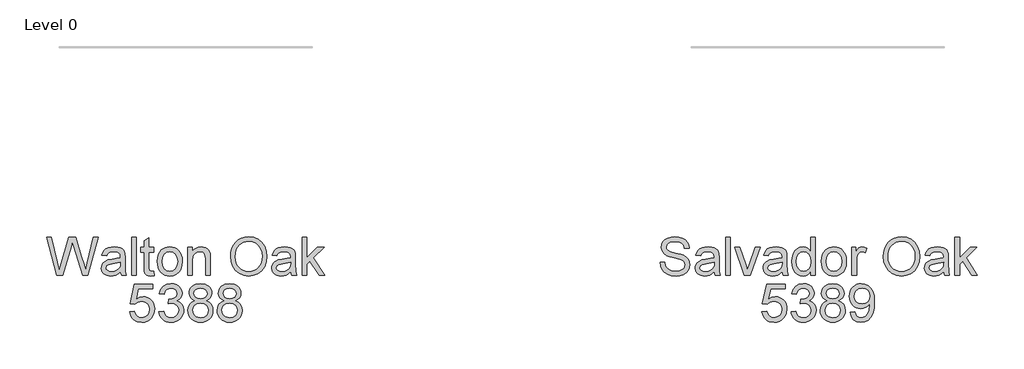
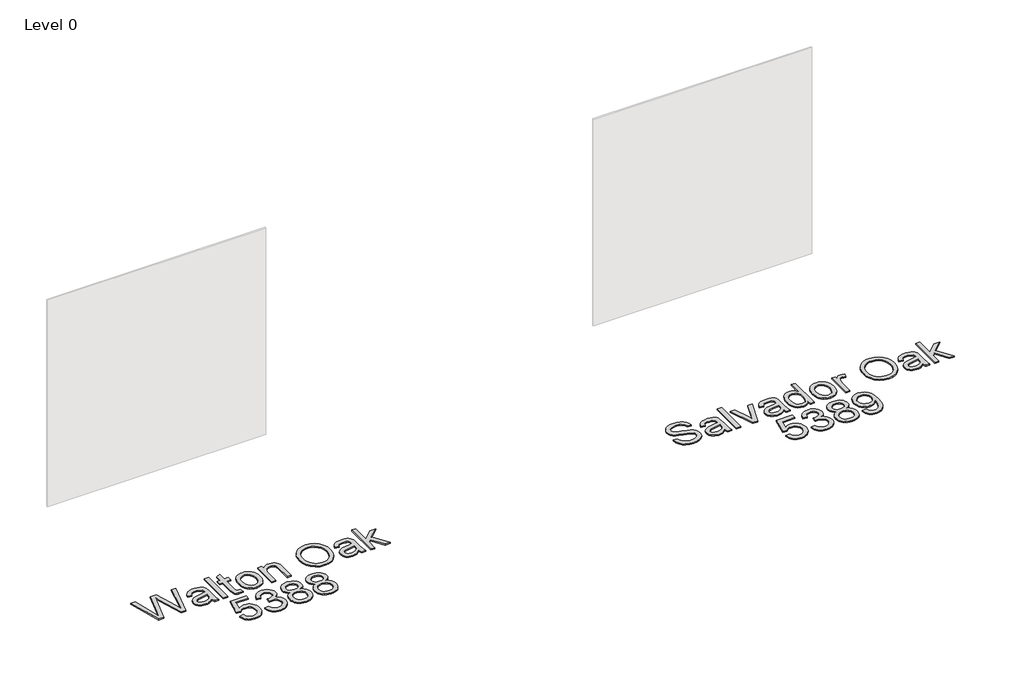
# One storey, part 15 of 16: 2 proxies.
"""IFC4 building model written with IfcOpenShell, lengths in millimetres."""

from ifc_helpers import new_model, si_unit, origin, origin_with_axes, place, context, project, spatial, polyline, outline, extrude, element, save

model = new_model("IFC4")

# Units and contexts
model_context = context("Model", 3, world=origin())
ifc_project = project(units=[si_unit("LENGTHUNIT", "METRE", prefix="MILLI")], contexts=[model_context])

# Site, building, storey
site = spatial("IfcSite", under=ifc_project)
building = spatial("IfcBuilding", under=site)
storey = spatial("IfcBuildingStorey", under=building, Name="Level 0", Elevation=0.0)

# Proxies
placement = place(None, origin())
element("IfcBuildingElementProxy", 1, Name="300mm Arial", ObjectType="300mm Arial", at=placement, inside=storey, context=model_context, shape_type="SweptSolid", body=[
    extrude(outline(polyline([(9301.4862161, -6899.2649241), (9339.1573324, -6899.2649241), (9343.4799458, -6920.1698185), (9351.2974382, -6936.9728286), (9363.4927263, -6950.308551), (9380.948727, -6960.8115819), (9402.2858827, -6967.6265959), (9426.124636, -6969.8982672), (9447.1123038, -6968.1784189), (9465.4880095, -6963.0188739), (9480.3780333, -6954.8518936), (9490.9086554, -6944.1097394), (9497.1718463, -6931.7764955), (9499.2595767, -6918.8362463), (9497.6960782, -6906.2270909), (9493.0055827, -6895.3285868), (9483.4774391, -6886.0303694), (9467.4009959, -6878.222074), (9412.5497904, -6863.837888), (9376.5433401, -6854.3189414), (9353.5047302, -6845.2598472), (9334.7519455, -6832.5863125), (9321.4622084, -6817.2272392), (9313.5435484, -6799.5137211), (9310.9039951, -6779.7768521), (9314.1689478, -6757.7131294), (9323.963806, -6737.1393289), (9340.0310521, -6719.7017223), (9362.1131689, -6707.0465817), (9388.6190666, -6699.3486509), (9417.9576557, -6696.782674), (9449.7426601, -6699.4682126), (9477.5545389, -6707.5248283), (9500.4000108, -6720.7869742), (9517.2857944, -6739.0891034), (9527.9727664, -6761.2907818), (9532.2218034, -6786.2515752), (9494.5506871, -6786.2515752), (9487.6345056, -6763.7739853), (9473.2135314, -6747.5503893), (9450.6807592, -6737.7279401), (9419.4291837, -6734.4537903), (9387.4418442, -6737.6911519), (9365.4976832, -6747.4032365), (9352.8057544, -6761.695452), (9348.5751114, -6778.6732061), (9351.5733497, -6793.1493626), (9360.5680645, -6804.7928278), (9381.8316438, -6815.2038882), (9422.0779341, -6825.8356779), (9463.6118113, -6835.9340387), (9488.7381516, -6844.7448125), (9510.2132631, -6858.4116286), (9525.1952573, -6875.2790181), (9533.9968341, -6895.1630399), (9536.930693, -6917.8797531), (9533.5553757, -6941.102304), (9523.4294237, -6962.9452975), (9506.9667045, -6981.7440675), (9484.5810851, -6995.8339479), (9457.6613201, -7004.6355246), (9427.596164, -7007.5693835), (9390.6884028, -7004.4055984), (9360.3105471, -6994.9142429), (9336.1131088, -6979.0585289), (9317.7466002, -6956.8016682), (9305.9559823, -6929.6887651), (9301.4862161, -6899.2649241)])), origin_with_axes(), (0.0, 0.0, 1.0), 10.0),
    extrude(outline(polyline([(9729.995164, -6974.6071568), (9711.9965374, -6990.0398064), (9693.4644819, -7000.1381672), (9673.9759332, -7005.7115794), (9653.107827, -7007.5693835), (9621.6263253, -7003.0996173), (9598.4037744, -6989.6903186), (9584.0839677, -6969.3280501), (9579.3106988, -6943.9993748), (9581.1133206, -6928.3827841), (9586.5211859, -6914.2009331), (9594.8629102, -6902.0608273), (9605.4671087, -6892.5694718), (9631.8442477, -6880.2086368), (9664.4385925, -6874.5432541), (9702.9558374, -6868.5835657), (9729.7744348, -6861.5938078), (9729.995164, -6853.2060983), (9727.401596, -6836.3938912), (9719.6208918, -6825.3942195), (9702.2200734, -6817.2272392), (9677.9766499, -6814.5049125), (9655.5358482, -6816.3167313), (9639.8640752, -6821.7521878), (9629.1771033, -6831.8045633), (9621.6907047, -6847.4671392), (9584.0195883, -6842.7582497), (9590.5586908, -6822.156858), (9600.3167607, -6805.9700502), (9614.2043061, -6793.590821), (9633.1318347, -6784.4121652), (9656.2808093, -6778.7283884), (9682.8326923, -6776.8337961), (9708.2993234, -6778.5076592), (9728.4868479, -6783.5292485), (9743.7079654, -6791.0800264), (9754.2753757, -6800.3414556), (9761.2835277, -6811.7917827), (9765.8268704, -6825.9092543), (9767.6662803, -6858.8714811), (9767.6662803, -6905.7396473), (9769.5792667, -6971.1858542), (9777.0840594, -7002.860494), (9739.4129431, -7002.860494), (9729.995164, -6974.6071568)]), holes=[polyline([(9729.995164, -6899.2649241), (9669.2210584, -6910.8164188), (9636.8106547, -6916.9232599), (9622.132163, -6926.8560738), (9616.9818151, -6941.3506244), (9619.7869153, -6952.5526311), (9628.202216, -6961.7312869), (9642.043776, -6967.8565221), (9661.1276545, -6969.8982672), (9681.3611643, -6967.64499), (9699.2402292, -6960.8851583), (9713.7347798, -6950.9247533), (9723.8147465, -6939.069756), (9728.2845128, -6926.8560738), (9729.7744348, -6909.933502), (9729.995164, -6899.2649241)])]), origin_with_axes(), (0.0, 0.0, 1.0), 10.0),
    extrude(outline(polyline([(9819.4640653, -7002.860494), (9819.4640653, -6701.4915635), (9857.1351816, -6701.4915635), (9857.1351816, -7002.860494), (9819.4640653, -7002.860494)])), origin_with_axes(), (0.0, 0.0, 1.0), 10.0),
    extrude(outline(polyline([(9967.9412385, -7002.860494), (9890.0974083, -6781.5426857), (9929.9758166, -6781.5426857), (9977.1382884, -6914.1273567), (9991.3385334, -6958.7146546), (10005.2444728, -6916.6289543), (10052.7012502, -6781.5426857), (10092.5796585, -6781.5426857), (10015.6923215, -7002.860494), (9967.9412385, -7002.860494)])), origin_with_axes(), (0.0, 0.0, 1.0), 10.0),
    extrude(outline(polyline([(10266.8085714, -6974.6071568), (10248.8099448, -6990.0398064), (10230.2778893, -7000.1381672), (10210.7893406, -7005.7115794), (10189.9212344, -7007.5693835), (10158.4397327, -7003.0996173), (10135.2171817, -6989.6903186), (10120.8973751, -6969.3280501), (10116.1241062, -6943.9993748), (10117.9267279, -6928.3827841), (10123.3345933, -6914.2009331), (10131.6763175, -6902.0608273), (10142.280516, -6892.5694718), (10168.6576551, -6880.2086368), (10201.2519999, -6874.5432541), (10239.7692448, -6868.5835657), (10266.5878422, -6861.5938078), (10266.8085714, -6853.2060983), (10264.2150033, -6836.3938912), (10256.4342991, -6825.3942195), (10239.0334808, -6817.2272392), (10214.7900573, -6814.5049125), (10192.3492556, -6816.3167313), (10176.6774826, -6821.7521878), (10165.9905106, -6831.8045633), (10158.504112, -6847.4671392), (10120.8329957, -6842.7582497), (10127.3720982, -6822.156858), (10137.1301681, -6805.9700502), (10151.0177134, -6793.590821), (10169.9452421, -6784.4121652), (10193.0942166, -6778.7283884), (10219.6460996, -6776.8337961), (10245.1127307, -6778.5076592), (10265.3002552, -6783.5292485), (10280.5213728, -6791.0800264), (10291.0887831, -6800.3414556), (10298.0969351, -6811.7917827), (10302.6402777, -6825.9092543), (10304.4796877, -6858.8714811), (10304.4796877, -6905.7396473), (10306.3926741, -6971.1858542), (10313.8974668, -7002.860494), (10276.2263505, -7002.860494), (10266.8085714, -6974.6071568)]), holes=[polyline([(10266.8085714, -6899.2649241), (10206.0344658, -6910.8164188), (10173.624062, -6916.9232599), (10158.9455704, -6926.8560738), (10153.7952225, -6941.3506244), (10156.6003227, -6952.5526311), (10165.0156233, -6961.7312869), (10178.8571834, -6967.8565221), (10197.9410619, -6969.8982672), (10218.1745716, -6967.64499), (10236.0536366, -6960.8851583), (10250.5481872, -6950.9247533), (10260.6281539, -6939.069756), (10265.0979201, -6926.8560738), (10266.5878422, -6909.933502), (10266.8085714, -6899.2649241)])]), origin_with_axes(), (0.0, 0.0, 1.0), 10.0),
    extrude(outline(polyline([(10492.8352692, -7002.860494), (10492.8352692, -6967.3230932), (10481.5642846, -6984.9308452), (10467.9112641, -6997.507811), (10451.8762076, -7005.0539904), (10433.4591152, -7007.5693835), (10409.1053271, -7003.9273518), (10386.8116782, -6993.0012565), (10367.9393319, -6975.5544529), (10353.8494515, -6952.350296), (10345.0754659, -6924.3268851), (10342.150804, -6892.422319), (10344.8455396, -6860.9132261), (10352.9297465, -6832.4575538), (10366.3942275, -6808.6739828), (10385.2297856, -6791.181194), (10408.0108782, -6780.4206456), (10433.3119624, -6776.8337961), (10451.7428504, -6779.3997731), (10468.0400228, -6787.0977038), (10481.8539917, -6798.8975188), (10492.8352692, -6813.7691485), (10492.8352692, -6701.4915635), (10530.5063855, -6701.4915635), (10530.5063855, -7002.860494), (10492.8352692, -7002.860494)]), holes=[polyline([(10379.8219203, -6892.2751662), (10384.0709574, -6926.350236), (10396.8180685, -6950.5844625), (10415.3409269, -6965.069816), (10436.917206, -6969.8982672), (10458.4842879, -6965.2905452), (10476.5380968, -6951.4673793), (10488.7609761, -6928.1712519), (10492.8352692, -6895.1446458), (10488.6873997, -6859.037028), (10476.2437913, -6834.0026582), (10457.7301298, -6819.3793489), (10435.3721016, -6814.5049125), (10413.5750934, -6819.1862108), (10395.7144225, -6833.230106), (10383.7950459, -6857.3539678), (10379.8219203, -6892.2751662)])]), origin_with_axes(), (0.0, 0.0, 1.0), 10.0),
    extrude(outline(polyline([(10577.5952809, -6892.2015898), (10579.6324275, -6863.5389839), (10585.7438671, -6838.8403064), (10595.9295999, -6818.1055575), (10610.1896257, -6801.334737), (10624.5462206, -6790.6155754), (10640.3927375, -6782.9590314), (10657.7291765, -6778.3651049), (10676.5555376, -6776.8337961), (10697.3385711, -6778.698498), (10716.1304433, -6784.2926036), (10732.9311541, -6793.6161129), (10747.7407037, -6806.669026), (10759.8279265, -6823.0098843), (10768.4616571, -6842.1972296), (10773.6418954, -6864.2310619), (10775.3686415, -6889.1113811), (10772.315221, -6927.1687735), (10763.1549593, -6956.1394806), (10748.1545709, -6977.8353213), (10727.5807704, -6994.0681143), (10703.1442088, -7004.1940662), (10676.5555376, -7007.5693835), (10655.4690015, -7005.7115794), (10636.5023854, -7000.1381672), (10619.6556893, -6990.8491468), (10604.9289132, -6977.8445183), (10592.9704491, -6961.3450108), (10584.428689, -6941.5713536), (10579.3036329, -6918.5235466), (10577.5952809, -6892.2015898)]), holes=[polyline([(10615.2663972, -6892.1280134), (10619.6257989, -6926.2214773), (10632.7040038, -6950.5108861), (10652.3856905, -6965.0514219), (10676.5555376, -6969.8982672), (10700.6150201, -6965.0238308), (10720.2599187, -6950.4005215), (10733.3381236, -6925.789216), (10737.6975252, -6890.950791), (10733.3105324, -6857.8506085), (10720.1495541, -6833.8922936), (10700.4770644, -6819.3517577), (10676.5555376, -6814.5049125), (10652.3856905, -6819.3333636), (10632.7040038, -6833.8187172), (10619.6257989, -6858.0529436), (10615.2663972, -6892.1280134)])]), origin_with_axes(), (0.0, 0.0, 1.0), 10.0),
    extrude(outline(polyline([(10817.7486474, -7002.860494), (10817.7486474, -6781.5426857), (10850.7108741, -6781.5426857), (10850.7108741, -6814.2841833), (10862.8877682, -6795.3014723), (10874.108169, -6784.1178596), (10885.3653581, -6778.654812), (10897.6526167, -6776.8337961), (10916.4145985, -6779.7400639), (10935.4708858, -6788.4588672), (10922.8893216, -6822.2304343), (10909.6455698, -6816.4362929), (10896.4018179, -6814.5049125), (10885.1538259, -6816.3627165), (10875.1014504, -6821.9361288), (10866.9804554, -6830.8020848), (10861.5266048, -6842.5375205), (10856.946474, -6863.5803706), (10855.4197637, -6886.5362071), (10855.4197637, -7002.860494), (10817.7486474, -7002.860494)])), origin_with_axes(), (0.0, 0.0, 1.0), 10.0),
    extrude(outline(polyline([(11067.3197929, -6856.1491543), (11069.8305875, -6820.8002931), (11077.3629714, -6789.5073309), (11089.9169445, -6762.2702677), (11107.4925068, -6739.0891034), (11129.0365961, -6720.5800406), (11153.4961503, -6707.3592814), (11180.8711692, -6699.4268258), (11211.161653, -6696.782674), (11250.6905734, -6701.7490809), (11286.1360036, -6716.6483017), (11315.5665632, -6740.4318727), (11337.0508718, -6772.0513302), (11350.184259, -6809.9799639), (11354.5620547, -6852.6910636), (11349.9543327, -6895.9723803), (11336.1311668, -6934.4344429), (11313.855912, -6966.1090827), (11283.8919235, -6989.028131), (11248.7499959, -7002.9340704), (11210.9409238, -7007.5693835), (11170.8049981, -7002.4466267), (11135.1572328, -6987.0783564), (11105.8002496, -6962.853327), (11084.5366703, -6931.1602931), (11071.6240122, -6894.6939903), (11067.3197929, -6856.1491543)]), holes=[polyline([(11104.9909092, -6856.5170363), (11106.8740052, -6881.4916252), (11112.5232931, -6903.661114), (11121.9387729, -6923.0255025), (11135.1204446, -6939.5847908), (11151.1440048, -6952.8469367), (11169.0851498, -6962.3198981), (11188.9438798, -6968.0036749), (11210.7201946, -6969.8982672), (11232.86899, -6967.9852808), (11252.9622447, -6962.2463217), (11270.9999588, -6952.6813898), (11286.9821322, -6939.2904852), (11300.0672349, -6922.381709), (11309.4137369, -6902.2631624), (11315.021638, -6878.9348454), (11316.8909384, -6852.396758), (11313.6903651, -6819.0482551), (11304.088645, -6790.2247008), (11288.3340986, -6766.6526619), (11266.6750461, -6749.0587055), (11240.5462274, -6738.1050191), (11211.3823822, -6734.4537903), (11190.3625247, -6736.2127261), (11170.8601804, -6741.4895335), (11152.8753494, -6750.2842124), (11136.4080316, -6762.5967629), (11122.6630406, -6779.0203948), (11112.8451898, -6800.1483176), (11106.9544794, -6825.9805314), (11104.9909092, -6856.5170363)])]), origin_with_axes(), (0.0, 0.0, 1.0), 10.0),
    extrude(outline(polyline([(11542.9176363, -6974.6071568), (11524.9190097, -6990.0398064), (11506.3869541, -7000.1381672), (11486.8984055, -7005.7115794), (11466.0302993, -7007.5693835), (11434.5487975, -7003.0996173), (11411.3262466, -6989.6903186), (11397.0064399, -6969.3280501), (11392.233171, -6943.9993748), (11394.0357928, -6928.3827841), (11399.4436581, -6914.2009331), (11407.7853824, -6902.0608273), (11418.3895809, -6892.5694718), (11444.76672, -6880.2086368), (11477.3610647, -6874.5432541), (11515.8783096, -6868.5835657), (11542.6969071, -6861.5938078), (11542.9176363, -6853.2060983), (11540.3240682, -6836.3938912), (11532.543364, -6825.3942195), (11515.1425456, -6817.2272392), (11490.8991221, -6814.5049125), (11468.4583204, -6816.3167313), (11452.7865474, -6821.7521878), (11442.0995755, -6831.8045633), (11434.6131769, -6847.4671392), (11396.9420606, -6842.7582497), (11403.481163, -6822.156858), (11413.239233, -6805.9700502), (11427.1267783, -6793.590821), (11446.0543069, -6784.4121652), (11469.2032815, -6778.7283884), (11495.7551645, -6776.8337961), (11521.2217956, -6778.5076592), (11541.4093201, -6783.5292485), (11556.6304376, -6791.0800264), (11567.1978479, -6800.3414556), (11574.206, -6811.7917827), (11578.7493426, -6825.9092543), (11580.5887526, -6858.8714811), (11580.5887526, -6905.7396473), (11582.5017389, -6971.1858542), (11590.0065316, -7002.860494), (11552.3354153, -7002.860494), (11542.9176363, -6974.6071568)]), holes=[polyline([(11542.9176363, -6899.2649241), (11482.1435307, -6910.8164188), (11449.7331269, -6916.9232599), (11435.0546353, -6926.8560738), (11429.9042873, -6941.3506244), (11432.7093876, -6952.5526311), (11441.1246882, -6961.7312869), (11454.9662483, -6967.8565221), (11474.0501268, -6969.8982672), (11494.2836365, -6967.64499), (11512.1627015, -6960.8851583), (11526.6572521, -6950.9247533), (11536.7372187, -6939.069756), (11541.206985, -6926.8560738), (11542.6969071, -6909.933502), (11542.9176363, -6899.2649241)])]), origin_with_axes(), (0.0, 0.0, 1.0), 10.0),
    extrude(outline(polyline([(11632.3865375, -7002.860494), (11632.3865375, -6701.4915635), (11670.0576538, -6701.4915635), (11670.0576538, -6863.4332178), (11754.5233599, -6781.5426857), (11806.6154504, -6781.5426857), (11721.1196747, -6864.4632874), (11811.3243399, -7002.860494), (11767.3256533, -7002.860494), (11694.1171363, -6890.6564855), (11670.0576538, -6913.9802039), (11670.0576538, -7002.860494), (11632.3865375, -7002.860494)])), origin_with_axes(), (0.0, 0.0, 1.0), 10.0),
    extrude(outline(polyline([(10106.7063271, -7288.7338254), (10144.3774434, -7284.0249358), (10151.2936249, -7306.6404815), (10163.3601544, -7322.8364863), (10180.5218494, -7332.5761621), (10202.7235278, -7335.8227207), (10229.7260663, -7331.3069693), (10249.959576, -7317.7597148), (10262.5963226, -7296.7444558), (10266.8085714, -7269.8246908), (10262.863037, -7244.4776213), (10251.0264338, -7225.0902402), (10231.2067913, -7212.7845875), (10203.312139, -7208.6827032), (10185.0376009, -7210.3197781), (10170.2395477, -7215.2310027), (10149.0863329, -7232.2271509), (10111.4152166, -7227.5182614), (10144.3774434, -7072.1249066), (10290.3530191, -7072.1249066), (10290.3530191, -7109.7960229), (10174.8380726, -7109.7960229), (10158.7248412, -7192.790201), (10185.6354092, -7176.4562404), (10213.8335641, -7171.0115869), (10232.1793793, -7172.6992456), (10249.030674, -7177.7622215), (10264.387448, -7186.2005148), (10278.2497014, -7198.0141254), (10289.7253204, -7212.4810848), (10297.9221911, -7228.8794248), (10302.8403136, -7247.2091452), (10304.4796877, -7267.470246), (10298.5751817, -7305.1413624), (10291.1945492, -7321.9351754), (10280.8616636, -7337.3678251), (10265.2082847, -7353.1729553), (10246.9429437, -7364.4623341), (10226.0656404, -7371.2359613), (10202.576375, -7373.4938371), (10165.5766434, -7367.6904986), (10149.8979726, -7360.4363255), (10136.1000985, -7350.2804832), (10124.619881, -7337.7288093), (10115.8941799, -7323.2871418), (10106.7063271, -7288.7338254)])), origin_with_axes(), (0.0, 0.0, 1.0), 10.0),
    extrude(outline(polyline([(10337.4419145, -7288.7338254), (10375.1130308, -7284.0249358), (10383.5467255, -7307.6981422), (10395.8983635, -7323.6826149), (10412.77495, -7332.7876943), (10434.7834904, -7335.8227207), (10460.6088065, -7331.6472601), (10480.5480106, -7319.1208782), (10493.2951217, -7300.4324728), (10497.5441588, -7277.7709419), (10493.3319099, -7256.2590422), (10480.6951634, -7238.8122386), (10461.5652996, -7227.2515469), (10437.8736992, -7223.397983), (10411.4597719, -7227.5182614), (10415.6536266, -7189.8471451), (10421.6868914, -7190.2886035), (10444.2564518, -7187.5846708), (10464.4347792, -7179.4728728), (10478.6718124, -7165.7508744), (10483.4174902, -7146.2163404), (10479.9777935, -7129.9467592), (10469.6587035, -7116.7489926), (10453.9133541, -7108.0025982), (10434.1948792, -7105.0871334), (10414.4396161, -7108.0301893), (10398.2895965, -7116.8593572), (10386.4989785, -7131.574637), (10379.8219203, -7152.1760288), (10342.150804, -7147.4671392), (10353.2424462, -7113.6403898), (10372.9793152, -7088.3852908), (10399.9818537, -7072.6583355), (10432.870504, -7067.4160171), (10456.5529075, -7070.0003881), (10478.3039304, -7077.7535011), (10496.6428479, -7089.9855775), (10510.0889348, -7106.0068384), (10518.3386885, -7124.4653175), (10521.0886065, -7144.0090485), (10518.4766443, -7162.2192072), (10510.6407578, -7178.7371088), (10497.6913116, -7192.8085951), (10479.7386702, -7203.6795081), (10503.3199061, -7213.2076518), (10520.7943009, -7229.4312477), (10531.6100315, -7251.4673793), (10535.2152751, -7278.4331295), (10533.4126533, -7297.5445992), (10528.004788, -7315.1477526), (10518.9916791, -7331.2425899), (10506.3733267, -7345.829111), (10491.0004578, -7357.9324287), (10473.7237996, -7366.5776555), (10454.5433521, -7371.7647917), (10433.4591152, -7373.4938371), (10414.4028279, -7372.0177105), (10397.0387977, -7367.589331), (10381.3670247, -7360.2086985), (10367.3875089, -7349.875813), (10355.6658688, -7337.1976797), (10346.767723, -7322.781304), (10340.6930716, -7306.6266859), (10337.4419145, -7288.7338254)])), origin_with_axes(), (0.0, 0.0, 1.0), 10.0),
    extrude(outline(polyline([(10623.0654955, -7202.7965913), (10602.8963651, -7192.8637774), (10588.7421054, -7179.3992964), (10580.381987, -7162.6790597), (10577.5952809, -7142.9789789), (10579.1127942, -7127.6153071), (10583.6653338, -7113.5300252), (10591.2529, -7100.7231332), (10601.8754926, -7089.1946312), (10615.0226754, -7079.6664875), (10630.1840121, -7072.8606706), (10666.5491474, -7067.4160171), (10703.1350118, -7072.9894293), (10718.4618954, -7079.9561946), (10731.8114133, -7089.709666), (10742.627144, -7101.4634957), (10750.3526659, -7114.4313361), (10754.987979, -7128.613187), (10756.5330834, -7144.0090485), (10753.7831655, -7163.0745329), (10745.5334117, -7179.509661), (10731.6918517, -7192.8913686), (10712.1665148, -7202.7965913), (10735.3522775, -7214.7435591), (10752.228864, -7232.3375155), (10762.5203628, -7254.732332), (10765.9508625, -7281.0818799), (10764.2494082, -7299.8714528), (10759.1450455, -7317.0975272), (10750.6377744, -7332.7601031), (10738.7275948, -7346.8591806), (10724.0399062, -7358.5118428), (10707.2001078, -7366.8351729), (10688.2081998, -7371.829171), (10667.0641821, -7373.4938371), (10645.9201645, -7371.8222732), (10626.9282565, -7366.8075818), (10610.0884581, -7358.4497627), (10595.4007695, -7346.748816), (10583.4905899, -7332.5508703), (10574.9833188, -7316.702054), (10569.8789561, -7299.2023674), (10568.1775018, -7280.0518103), (10571.7459572, -7252.6813898), (10582.4513233, -7230.1670117), (10599.741777, -7213.2812282), (10623.0654955, -7202.7965913)]), holes=[polyline([(10615.2663972, -7144.0826249), (10618.6049263, -7160.52695), (10628.6205137, -7173.6603373), (10645.0188536, -7182.268776), (10667.5056405, -7185.1382555), (10689.4681957, -7182.2871701), (10705.6182152, -7173.7339137), (10715.5510291, -7161.0419848), (10718.8619671, -7145.774882), (10715.4406645, -7129.9283651), (10705.1767568, -7116.822569), (10688.8060081, -7108.0209923), (10667.0641821, -7105.0871334), (10645.1844005, -7107.9566129), (10628.8412429, -7116.5650516), (10618.6601086, -7129.1834041), (10615.2663972, -7144.0826249)]), polyline([(10605.8486182, -7278.7274351), (10612.1394003, -7307.0911369), (10620.8490065, -7319.2588339), (10634.396261, -7328.317928), (10650.619857, -7333.9465226), (10667.3584877, -7335.8227207), (10692.9998628, -7331.8771864), (10712.2400912, -7320.0405832), (10724.2698324, -7302.1155329), (10728.2797461, -7279.9046575), (10724.1410737, -7257.316703), (10711.7250564, -7238.9961796), (10692.0433696, -7226.8560738), (10666.107689, -7222.8093718), (10640.8249988, -7226.8008915), (10621.7779085, -7238.7754504), (10609.8309407, -7256.7464859), (10605.8486182, -7278.7274351)])]), origin_with_axes(), (0.0, 0.0, 1.0), 10.0),
    extrude(outline(polyline([(10803.6219788, -7293.4427149), (10841.2930951, -7288.7338254), (10847.73103, -7310.1169663), (10858.2156668, -7324.6758963), (10872.4894883, -7333.0360146), (10890.2949768, -7335.8227207), (10906.2702525, -7334.029296), (10920.7923942, -7328.6490218), (10932.8589237, -7320.2705094), (10941.4673624, -7309.4823699), (10953.7914092, -7276.7408723), (10959.2360627, -7233.0364913), (10959.0153335, -7225.6788514), (10945.9647197, -7241.6081418), (10928.8857981, -7254.2264942), (10909.0109733, -7262.4486568), (10887.5726501, -7265.1893777), (10869.6774903, -7263.5155146), (10853.2216688, -7258.4939254), (10838.2051856, -7250.12461), (10824.6280407, -7238.4075684), (10813.3777494, -7223.9544045), (10805.3418271, -7207.3767221), (10800.5202737, -7188.6745212), (10798.9130892, -7167.8478018), (10800.5984486, -7146.326705), (10805.6545268, -7127.0129003), (10814.0813237, -7109.9063875), (10825.8788395, -7095.0071667), (10840.214741, -7082.9360387), (10856.2566952, -7074.3138045), (10874.0047022, -7069.1404639), (10893.458762, -7067.4160171), (10921.5557494, -7071.3523544), (10947.1327451, -7083.1613665), (10968.5250831, -7102.254442), (10984.0680974, -7128.0429699), (10993.5318617, -7163.6907352), (10996.6864498, -7212.3615232), (10993.5410588, -7263.96617), (10984.1048856, -7303.8537754), (10968.4607037, -7333.8269609), (10946.6912867, -7355.6883485), (10919.7347335, -7369.0424649), (10888.5291432, -7373.4938371), (10856.3210746, -7368.2423216), (10830.6245172, -7352.4877751), (10812.6534817, -7327.2234791), (10803.6219788, -7293.4427149)]), holes=[polyline([(10959.0153335, -7166.964885), (10954.9502375, -7141.4338745), (10942.7549493, -7121.788976), (10923.8274207, -7109.262594), (10899.5656031, -7105.0871334), (10874.4024746, -7109.5844908), (10854.2425413, -7123.0765629), (10840.9987895, -7143.7239399), (10836.5842055, -7169.6872117), (10840.7596662, -7192.964945), (10853.2860481, -7211.4418182), (10872.9493407, -7223.4991506), (10898.5355335, -7227.5182614), (10922.604213, -7223.4991506), (10941.9823971, -7211.4418182), (10954.7570994, -7192.2843633), (10959.0153335, -7166.964885)])]), origin_with_axes(), (0.0, 0.0, 1.0), 10.0),
])
element("IfcBuildingElementProxy", 2, Name="300mm Arial", ObjectType="300mm Arial", at=placement, inside=storey, context=model_context, shape_type="SweptSolid", body=[
    extrude(outline(polyline([(4532.0010742, -7002.860494), (4449.8162365, -6701.4915635), (4488.6645752, -6701.4915635), (4536.3420818, -6899.5592297), (4551.0573616, -6960.7012173), (4566.802711, -6906.622564), (4626.546747, -6701.4915635), (4682.5383867, -6701.4915635), (4725.9484621, -6850.189466), (4744.5448969, -6905.3717653), (4758.2485013, -6960.7012173), (4772.5223227, -6901.3250633), (4820.6412876, -6701.4915635), (4859.4896263, -6701.4915635), (4777.2312122, -7002.860494), (4736.9849219, -7002.860494), (4664.7328981, -6770.359073), (4654.6529314, -6737.9118811), (4643.322166, -6776.9809489), (4577.4712888, -7002.860494), (4532.0010742, -7002.860494)])), origin_with_axes(), (0.0, 0.0, 1.0), 10.0),
    extrude(outline(polyline([(5033.7185393, -6974.6071568), (5015.7199126, -6990.0398064), (4997.1878571, -7000.1381672), (4977.6993084, -7005.7115794), (4956.8312023, -7007.5693835), (4925.3497005, -7003.0996173), (4902.1271496, -6989.6903186), (4887.8073429, -6969.3280501), (4883.034074, -6943.9993748), (4884.8366958, -6928.3827841), (4890.2445611, -6914.2009331), (4898.5862854, -6902.0608273), (4909.1904839, -6892.5694718), (4935.5676229, -6880.2086368), (4968.1619677, -6874.5432541), (5006.6792126, -6868.5835657), (5033.4978101, -6861.5938078), (5033.7185393, -6853.2060983), (5031.1249712, -6836.3938912), (5023.344267, -6825.3942195), (5005.9434486, -6817.2272392), (4981.7000251, -6814.5049125), (4959.2592234, -6816.3167313), (4943.5874504, -6821.7521878), (4932.9004785, -6831.8045633), (4925.4140799, -6847.4671392), (4887.7429636, -6842.7582497), (4894.282066, -6822.156858), (4904.040136, -6805.9700502), (4917.9276813, -6793.590821), (4936.8552099, -6784.4121652), (4960.0041845, -6778.7283884), (4986.5560675, -6776.8337961), (5012.0226986, -6778.5076592), (5032.2102231, -6783.5292485), (5047.4313406, -6791.0800264), (5057.9987509, -6800.3414556), (5065.0069029, -6811.7917827), (5069.5502456, -6825.9092543), (5071.3896556, -6858.8714811), (5071.3896556, -6905.7396473), (5073.3026419, -6971.1858542), (5080.8074346, -7002.860494), (5043.1363183, -7002.860494), (5033.7185393, -6974.6071568)]), holes=[polyline([(5033.7185393, -6899.2649241), (4972.9444336, -6910.8164188), (4940.5340299, -6916.9232599), (4925.8555383, -6926.8560738), (4920.7051903, -6941.3506244), (4923.5102905, -6952.5526311), (4931.9255912, -6961.7312869), (4945.7671513, -6967.8565221), (4964.8510298, -6969.8982672), (4985.0845395, -6967.64499), (5002.9636045, -6960.8851583), (5017.4581551, -6950.9247533), (5027.5381217, -6939.069756), (5032.007888, -6926.8560738), (5033.4978101, -6909.933502), (5033.7185393, -6899.2649241)])]), origin_with_axes(), (0.0, 0.0, 1.0), 10.0),
    extrude(outline(polyline([(5123.1874405, -7002.860494), (5123.1874405, -6701.4915635), (5160.8585568, -6701.4915635), (5160.8585568, -7002.860494), (5123.1874405, -7002.860494)])), origin_with_axes(), (0.0, 0.0, 1.0), 10.0),
    extrude(outline(polyline([(5297.4163534, -6971.4433716), (5302.1252429, -7003.96414), (5273.9454821, -7007.5693835), (5255.864082, -7006.005885), (5242.3812069, -7001.3153896), (5232.8530632, -6994.0865084), (5226.6358575, -6984.9078526), (5223.214555, -6969.1441091), (5222.0741208, -6942.1599648), (5222.0741208, -6819.213802), (5193.8207836, -6819.213802), (5193.8207836, -6781.5426857), (5222.0741208, -6781.5426857), (5222.0741208, -6727.758338), (5259.7452371, -6705.6118419), (5259.7452371, -6781.5426857), (5297.4163534, -6781.5426857), (5297.4163534, -6819.213802), (5259.7452371, -6819.213802), (5259.7452371, -6941.0563188), (5261.7317999, -6960.4804881), (5268.1697348, -6967.3598814), (5281.0088164, -6969.8982672), (5297.4163534, -6971.4433716)])), origin_with_axes(), (0.0, 0.0, 1.0), 10.0),
    extrude(outline(polyline([(5325.6696906, -6892.2015898), (5327.7068372, -6863.5389839), (5333.8182768, -6838.8403064), (5344.0040096, -6818.1055575), (5358.2640354, -6801.334737), (5372.6206303, -6790.6155754), (5388.4671472, -6782.9590314), (5405.8035862, -6778.3651049), (5424.6299473, -6776.8337961), (5445.4129808, -6778.698498), (5464.204853, -6784.2926036), (5481.0055638, -6793.6161129), (5495.8151134, -6806.669026), (5507.9023362, -6823.0098843), (5516.5360668, -6842.1972296), (5521.7163051, -6864.2310619), (5523.4430512, -6889.1113811), (5520.3896307, -6927.1687735), (5511.229369, -6956.1394806), (5496.2289806, -6977.8353213), (5475.6551801, -6994.0681143), (5451.2186185, -7004.1940662), (5424.6299473, -7007.5693835), (5403.5434112, -7005.7115794), (5384.5767951, -7000.1381672), (5367.730099, -6990.8491468), (5353.0033229, -6977.8445183), (5341.0448588, -6961.3450108), (5332.5030987, -6941.5713536), (5327.3780426, -6918.5235466), (5325.6696906, -6892.2015898)]), holes=[polyline([(5363.3408069, -6892.1280134), (5367.7002086, -6926.2214773), (5380.7784135, -6950.5108861), (5400.4601002, -6965.0514219), (5424.6299473, -6969.8982672), (5448.6894298, -6965.0238308), (5468.3343284, -6950.4005215), (5481.4125333, -6925.789216), (5485.7719349, -6890.950791), (5481.3849421, -6857.8506085), (5468.2239638, -6833.8922936), (5448.5514741, -6819.3517577), (5424.6299473, -6814.5049125), (5400.4601002, -6819.3333636), (5380.7784135, -6833.8187172), (5367.7002086, -6858.0529436), (5363.3408069, -6892.1280134)])]), origin_with_axes(), (0.0, 0.0, 1.0), 10.0),
    extrude(outline(polyline([(5565.8230571, -7002.860494), (5565.8230571, -6781.5426857), (5603.4941734, -6781.5426857), (5603.4941734, -6812.4447733), (5616.5815754, -6796.8649708), (5632.2993336, -6785.7365404), (5650.6474481, -6779.0594822), (5671.6259189, -6776.8337961), (5690.1947626, -6778.6272209), (5707.2001078, -6784.0074951), (5721.3819587, -6792.303234), (5731.4803195, -6802.8430532), (5742.7742968, -6830.5445674), (5744.7608595, -6866.964885), (5744.7608595, -7002.860494), (5707.0897432, -7002.860494), (5707.0897432, -6872.0416565), (5702.7487357, -6838.7115477), (5696.7430621, -6828.7879309), (5687.4080565, -6821.0900002), (5675.4426946, -6816.1511844), (5661.5459522, -6814.5049125), (5639.4822296, -6818.2021265), (5620.6742626, -6829.2937687), (5613.1579735, -6838.3482643), (5607.7891957, -6850.7228949), (5603.4941734, -6885.4325611), (5603.4941734, -7002.860494), (5565.8230571, -7002.860494)])), origin_with_axes(), (0.0, 0.0, 1.0), 10.0),
    extrude(outline(polyline([(5904.8631038, -6856.1491543), (5907.3738984, -6820.8002931), (5914.9062823, -6789.5073309), (5927.4602554, -6762.2702677), (5945.0358177, -6739.0891034), (5966.579907, -6720.5800406), (5991.0394612, -6707.3592814), (6018.4144802, -6699.4268258), (6048.7049639, -6696.782674), (6088.2338843, -6701.7490809), (6123.6793146, -6716.6483017), (6153.1098742, -6740.4318727), (6174.5941827, -6772.0513302), (6187.7275699, -6809.9799639), (6192.1053657, -6852.6910636), (6187.4976437, -6895.9723803), (6173.6744777, -6934.4344429), (6151.3992229, -6966.1090827), (6121.4352344, -6989.028131), (6086.2933068, -7002.9340704), (6048.4842347, -7007.5693835), (6008.3483091, -7002.4466267), (5972.7005437, -6987.0783564), (5943.3435605, -6962.853327), (5922.0799812, -6931.1602931), (5909.1673232, -6894.6939903), (5904.8631038, -6856.1491543)]), holes=[polyline([(5942.5342201, -6856.5170363), (5944.4173161, -6881.4916252), (5950.066604, -6903.661114), (5959.4820838, -6923.0255025), (5972.6637555, -6939.5847908), (5988.6873157, -6952.8469367), (6006.6284607, -6962.3198981), (6026.4871907, -6968.0036749), (6048.2635056, -6969.8982672), (6070.4123009, -6967.9852808), (6090.5055556, -6962.2463217), (6108.5432697, -6952.6813898), (6124.5254432, -6939.2904852), (6137.6105459, -6922.381709), (6146.9570478, -6902.2631624), (6152.564949, -6878.9348454), (6154.4342494, -6852.396758), (6151.233676, -6819.0482551), (6141.6319559, -6790.2247008), (6125.8774095, -6766.6526619), (6104.218357, -6749.0587055), (6078.0895383, -6738.1050191), (6048.9256931, -6734.4537903), (6027.9058356, -6736.2127261), (6008.4034914, -6741.4895335), (5990.4186603, -6750.2842124), (5973.9513425, -6762.5967629), (5960.2063515, -6779.0203948), (5950.3885007, -6800.1483176), (5944.4977903, -6825.9805314), (5942.5342201, -6856.5170363)])]), origin_with_axes(), (0.0, 0.0, 1.0), 10.0),
    extrude(outline(polyline([(6380.4609472, -6974.6071568), (6362.4623206, -6990.0398064), (6343.9302651, -7000.1381672), (6324.4417164, -7005.7115794), (6303.5736102, -7007.5693835), (6272.0921085, -7003.0996173), (6248.8695575, -6989.6903186), (6234.5497509, -6969.3280501), (6229.776482, -6943.9993748), (6231.5791037, -6928.3827841), (6236.9869691, -6914.2009331), (6245.3286933, -6902.0608273), (6255.9328918, -6892.5694718), (6282.3100309, -6880.2086368), (6314.9043757, -6874.5432541), (6353.4216206, -6868.5835657), (6380.240218, -6861.5938078), (6380.4609472, -6853.2060983), (6377.8673791, -6836.3938912), (6370.0866749, -6825.3942195), (6352.6858566, -6817.2272392), (6328.4424331, -6814.5049125), (6306.0016314, -6816.3167313), (6290.3298584, -6821.7521878), (6279.6428864, -6831.8045633), (6272.1564878, -6847.4671392), (6234.4853715, -6842.7582497), (6241.024474, -6822.156858), (6250.7825439, -6805.9700502), (6264.6700892, -6793.590821), (6283.5976179, -6784.4121652), (6306.7465924, -6778.7283884), (6333.2984754, -6776.8337961), (6358.7651065, -6778.5076592), (6378.952631, -6783.5292485), (6394.1737486, -6791.0800264), (6404.7411589, -6800.3414556), (6411.7493109, -6811.7917827), (6416.2926535, -6825.9092543), (6418.1320635, -6858.8714811), (6418.1320635, -6905.7396473), (6420.0450499, -6971.1858542), (6427.5498426, -7002.860494), (6389.8787263, -7002.860494), (6380.4609472, -6974.6071568)]), holes=[polyline([(6380.4609472, -6899.2649241), (6319.6868416, -6910.8164188), (6287.2764378, -6916.9232599), (6272.5979462, -6926.8560738), (6267.4475983, -6941.3506244), (6270.2526985, -6952.5526311), (6278.6679991, -6961.7312869), (6292.5095592, -6967.8565221), (6311.5934377, -6969.8982672), (6331.8269474, -6967.64499), (6349.7060124, -6960.8851583), (6364.200563, -6950.9247533), (6374.2805297, -6939.069756), (6378.7502959, -6926.8560738), (6380.240218, -6909.933502), (6380.4609472, -6899.2649241)])]), origin_with_axes(), (0.0, 0.0, 1.0), 10.0),
    extrude(outline(polyline([(6469.9298484, -7002.860494), (6469.9298484, -6701.4915635), (6507.6009647, -6701.4915635), (6507.6009647, -6863.4332178), (6592.0666708, -6781.5426857), (6644.1587613, -6781.5426857), (6558.6629857, -6864.4632874), (6648.8676509, -7002.860494), (6604.8689643, -7002.860494), (6531.6604472, -6890.6564855), (6507.6009647, -6913.9802039), (6507.6009647, -7002.860494), (6469.9298484, -7002.860494)])), origin_with_axes(), (0.0, 0.0, 1.0), 10.0),
    extrude(outline(polyline([(5106.7063271, -7288.7338254), (5144.3774434, -7284.0249358), (5151.2936249, -7306.6404815), (5163.3601544, -7322.8364863), (5180.5218494, -7332.5761621), (5202.7235278, -7335.8227207), (5229.7260663, -7331.3069693), (5249.959576, -7317.7597148), (5262.5963226, -7296.7444558), (5266.8085714, -7269.8246908), (5262.863037, -7244.4776213), (5251.0264338, -7225.0902402), (5231.2067913, -7212.7845875), (5203.312139, -7208.6827032), (5185.0376009, -7210.3197781), (5170.2395477, -7215.2310027), (5149.0863329, -7232.2271509), (5111.4152166, -7227.5182614), (5144.3774434, -7072.1249066), (5290.3530191, -7072.1249066), (5290.3530191, -7109.7960229), (5174.8380726, -7109.7960229), (5158.7248412, -7192.790201), (5185.6354092, -7176.4562404), (5213.8335641, -7171.0115869), (5232.1793793, -7172.6992456), (5249.030674, -7177.7622215), (5264.387448, -7186.2005148), (5278.2497014, -7198.0141254), (5289.7253204, -7212.4810848), (5297.9221911, -7228.8794248), (5302.8403136, -7247.2091452), (5304.4796877, -7267.470246), (5298.5751817, -7305.1413624), (5291.1945492, -7321.9351754), (5280.8616636, -7337.3678251), (5265.2082847, -7353.1729553), (5246.9429437, -7364.4623341), (5226.0656404, -7371.2359613), (5202.576375, -7373.4938371), (5165.5766434, -7367.6904986), (5149.8979726, -7360.4363255), (5136.1000985, -7350.2804832), (5124.619881, -7337.7288093), (5115.8941799, -7323.2871418), (5106.7063271, -7288.7338254)])), origin_with_axes(), (0.0, 0.0, 1.0), 10.0),
    extrude(outline(polyline([(5337.4419145, -7288.7338254), (5375.1130308, -7284.0249358), (5383.5467255, -7307.6981422), (5395.8983635, -7323.6826149), (5412.77495, -7332.7876943), (5434.7834904, -7335.8227207), (5460.6088065, -7331.6472601), (5480.5480106, -7319.1208782), (5493.2951217, -7300.4324728), (5497.5441588, -7277.7709419), (5493.3319099, -7256.2590422), (5480.6951634, -7238.8122386), (5461.5652996, -7227.2515469), (5437.8736992, -7223.397983), (5411.4597719, -7227.5182614), (5415.6536266, -7189.8471451), (5421.6868914, -7190.2886035), (5444.2564518, -7187.5846708), (5464.4347792, -7179.4728728), (5478.6718124, -7165.7508744), (5483.4174902, -7146.2163404), (5479.9777935, -7129.9467592), (5469.6587035, -7116.7489926), (5453.9133541, -7108.0025982), (5434.1948792, -7105.0871334), (5414.4396161, -7108.0301893), (5398.2895965, -7116.8593572), (5386.4989785, -7131.574637), (5379.8219203, -7152.1760288), (5342.150804, -7147.4671392), (5353.2424462, -7113.6403898), (5372.9793152, -7088.3852908), (5399.9818537, -7072.6583355), (5432.870504, -7067.4160171), (5456.5529075, -7070.0003881), (5478.3039304, -7077.7535011), (5496.6428479, -7089.9855775), (5510.0889348, -7106.0068384), (5518.3386885, -7124.4653175), (5521.0886065, -7144.0090485), (5518.4766443, -7162.2192072), (5510.6407578, -7178.7371088), (5497.6913116, -7192.8085951), (5479.7386702, -7203.6795081), (5503.3199061, -7213.2076518), (5520.7943009, -7229.4312477), (5531.6100315, -7251.4673793), (5535.2152751, -7278.4331295), (5533.4126533, -7297.5445992), (5528.004788, -7315.1477526), (5518.9916791, -7331.2425899), (5506.3733267, -7345.829111), (5491.0004578, -7357.9324287), (5473.7237996, -7366.5776555), (5454.5433521, -7371.7647917), (5433.4591152, -7373.4938371), (5414.4028279, -7372.0177105), (5397.0387977, -7367.589331), (5381.3670247, -7360.2086985), (5367.3875089, -7349.875813), (5355.6658688, -7337.1976797), (5346.767723, -7322.781304), (5340.6930716, -7306.6266859), (5337.4419145, -7288.7338254)])), origin_with_axes(), (0.0, 0.0, 1.0), 10.0),
    extrude(outline(polyline([(5623.0654955, -7202.7965913), (5602.8963651, -7192.8637774), (5588.7421054, -7179.3992964), (5580.381987, -7162.6790597), (5577.5952809, -7142.9789789), (5579.1127942, -7127.6153071), (5583.6653338, -7113.5300252), (5591.2529, -7100.7231332), (5601.8754926, -7089.1946312), (5615.0226754, -7079.6664875), (5630.1840121, -7072.8606706), (5666.5491474, -7067.4160171), (5703.1350118, -7072.9894293), (5718.4618954, -7079.9561946), (5731.8114133, -7089.709666), (5742.627144, -7101.4634957), (5750.3526659, -7114.4313361), (5754.987979, -7128.613187), (5756.5330834, -7144.0090485), (5753.7831655, -7163.0745329), (5745.5334117, -7179.509661), (5731.6918517, -7192.8913686), (5712.1665148, -7202.7965913), (5735.3522775, -7214.7435591), (5752.228864, -7232.3375155), (5762.5203628, -7254.732332), (5765.9508625, -7281.0818799), (5764.2494082, -7299.8714528), (5759.1450455, -7317.0975272), (5750.6377744, -7332.7601031), (5738.7275948, -7346.8591806), (5724.0399062, -7358.5118428), (5707.2001078, -7366.8351729), (5688.2081998, -7371.829171), (5667.0641821, -7373.4938371), (5645.9201645, -7371.8222732), (5626.9282565, -7366.8075818), (5610.0884581, -7358.4497627), (5595.4007695, -7346.748816), (5583.4905899, -7332.5508703), (5574.9833188, -7316.702054), (5569.8789561, -7299.2023674), (5568.1775018, -7280.0518103), (5571.7459572, -7252.6813898), (5582.4513233, -7230.1670117), (5599.741777, -7213.2812282), (5623.0654955, -7202.7965913)]), holes=[polyline([(5615.2663972, -7144.0826249), (5618.6049263, -7160.52695), (5628.6205137, -7173.6603373), (5645.0188536, -7182.268776), (5667.5056405, -7185.1382555), (5689.4681957, -7182.2871701), (5705.6182152, -7173.7339137), (5715.5510291, -7161.0419848), (5718.8619671, -7145.774882), (5715.4406645, -7129.9283651), (5705.1767568, -7116.822569), (5688.8060081, -7108.0209923), (5667.0641821, -7105.0871334), (5645.1844005, -7107.9566129), (5628.8412429, -7116.5650516), (5618.6601086, -7129.1834041), (5615.2663972, -7144.0826249)]), polyline([(5605.8486182, -7278.7274351), (5612.1394003, -7307.0911369), (5620.8490065, -7319.2588339), (5634.396261, -7328.317928), (5650.619857, -7333.9465226), (5667.3584877, -7335.8227207), (5692.9998628, -7331.8771864), (5712.2400912, -7320.0405832), (5724.2698324, -7302.1155329), (5728.2797461, -7279.9046575), (5724.1410737, -7257.316703), (5711.7250564, -7238.9961796), (5692.0433696, -7226.8560738), (5666.107689, -7222.8093718), (5640.8249988, -7226.8008915), (5621.7779085, -7238.7754504), (5609.8309407, -7256.7464859), (5605.8486182, -7278.7274351)])]), origin_with_axes(), (0.0, 0.0, 1.0), 10.0),
    extrude(outline(polyline([(5853.8010829, -7202.7965913), (5833.6319525, -7192.8637774), (5819.4776928, -7179.3992964), (5811.1175744, -7162.6790597), (5808.3308683, -7142.9789789), (5809.8483815, -7127.6153071), (5814.4009212, -7113.5300252), (5821.9884874, -7100.7231332), (5832.61108, -7089.1946312), (5845.7582628, -7079.6664875), (5860.9195995, -7072.8606706), (5897.2847347, -7067.4160171), (5933.8705992, -7072.9894293), (5949.1974828, -7079.9561946), (5962.5470007, -7089.709666), (5973.3627313, -7101.4634957), (5981.0882532, -7114.4313361), (5985.7235664, -7128.613187), (5987.2686708, -7144.0090485), (5984.5187528, -7163.0745329), (5976.2689991, -7179.509661), (5962.427439, -7192.8913686), (5942.9021021, -7202.7965913), (5966.0878649, -7214.7435591), (5982.9644514, -7232.3375155), (5993.2559502, -7254.732332), (5996.6864498, -7281.0818799), (5994.9849956, -7299.8714528), (5989.8806329, -7317.0975272), (5981.3733618, -7332.7601031), (5969.4631822, -7346.8591806), (5954.7754935, -7358.5118428), (5937.9356952, -7366.8351729), (5918.9437872, -7371.829171), (5897.7997695, -7373.4938371), (5876.6557519, -7371.8222732), (5857.6638439, -7366.8075818), (5840.8240455, -7358.4497627), (5826.1363569, -7346.748816), (5814.2261773, -7332.5508703), (5805.7189061, -7316.702054), (5800.6145434, -7299.2023674), (5798.9130892, -7280.0518103), (5802.4815446, -7252.6813898), (5813.1869106, -7230.1670117), (5830.4773644, -7213.2812282), (5853.8010829, -7202.7965913)]), holes=[polyline([(5846.0019846, -7144.0826249), (5849.3405137, -7160.52695), (5859.356101, -7173.6603373), (5875.754441, -7182.268776), (5898.2412279, -7185.1382555), (5920.203783, -7182.2871701), (5936.3538026, -7173.7339137), (5946.2866165, -7161.0419848), (5949.5975544, -7145.774882), (5946.1762519, -7129.9283651), (5935.9123442, -7116.822569), (5919.5415954, -7108.0209923), (5897.7997695, -7105.0871334), (5875.9199879, -7107.9566129), (5859.5768302, -7116.5650516), (5849.395696, -7129.1834041), (5846.0019846, -7144.0826249)]), polyline([(5836.5842055, -7278.7274351), (5842.8749876, -7307.0911369), (5851.5845939, -7319.2588339), (5865.1318484, -7328.317928), (5881.3554443, -7333.9465226), (5898.0940751, -7335.8227207), (5923.7354502, -7331.8771864), (5942.9756785, -7320.0405832), (5955.0054198, -7302.1155329), (5959.0153335, -7279.9046575), (5954.8766611, -7257.316703), (5942.4606437, -7238.9961796), (5922.778957, -7226.8560738), (5896.8432763, -7222.8093718), (5871.5605862, -7226.8008915), (5852.5134959, -7238.7754504), (5840.5665281, -7256.7464859), (5836.5842055, -7278.7274351)])]), origin_with_axes(), (0.0, 0.0, 1.0), 10.0),
])

save(model, "model.ifc")
